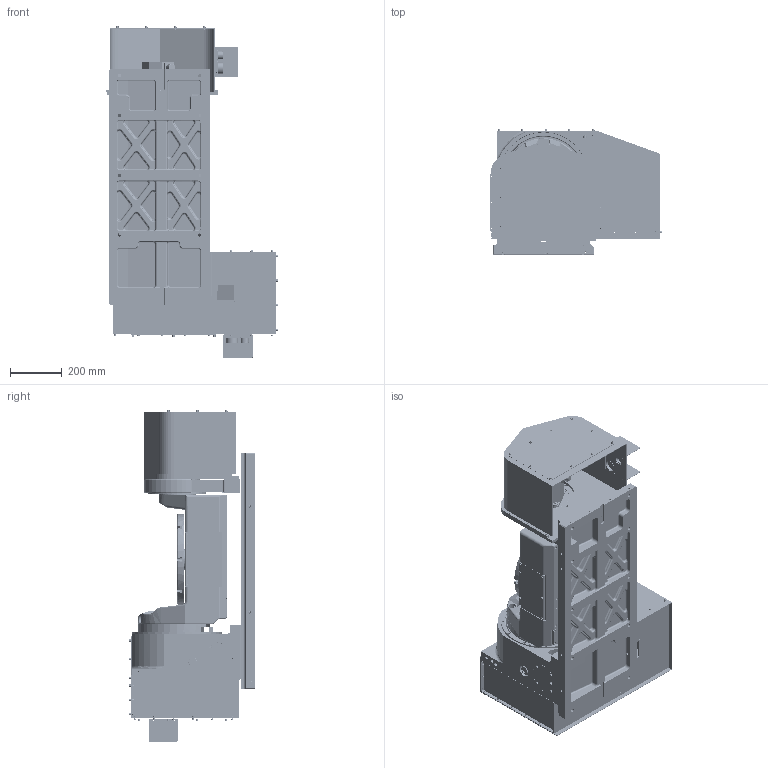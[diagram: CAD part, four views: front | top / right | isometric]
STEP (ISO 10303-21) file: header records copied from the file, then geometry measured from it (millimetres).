
FILE_DESCRIPTION (( 'STEP AP203' ), '1' );
FILE_NAME ('15121387 MDAT353S-ECT-12.STEP', '2020-12-05T05:31:18', ( '' ), ( '' ), 'SwSTEP 2.0', 'SolidWorks 2019', '' );
FILE_SCHEMA (( 'CONFIG_CONTROL_DESIGN' ));
Length unit declared in the file: millimetre
Products named in the file (1): 15121387 MDAT353S-ECT-12
Bounding box: 661.38 x 485.3 x 1283.1 mm (x, y, z)
Surface area: 5364844.1 mm2 (no closed solid volume)
Topology: 0 solids, 241 shells, 2574 faces, 8706 edges, 6262 vertices
Faces by surface type: cylinder 1179, plane 855, cone 219, bspline 170, torus 149, sphere 2
Entity records: 107961 total; most frequent: CARTESIAN_POINT 30848, DIRECTION 17165, ORIENTED_EDGE 13675, EDGE_CURVE 8669, AXIS2_PLACEMENT_3D 6664, VERTEX_POINT 6262, CIRCLE 4259, LINE 3837
